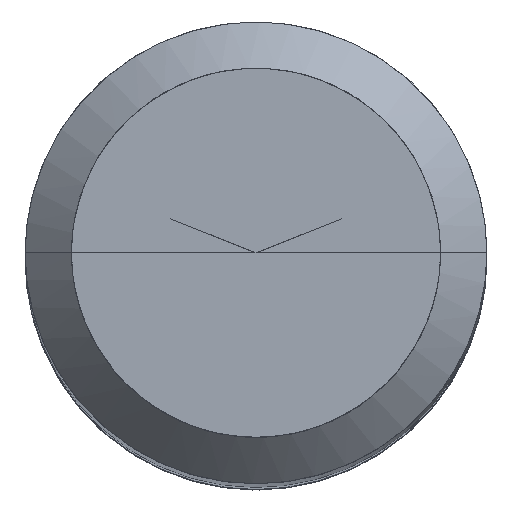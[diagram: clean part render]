
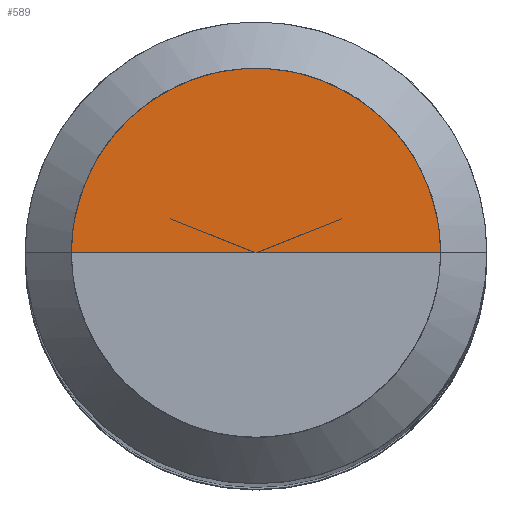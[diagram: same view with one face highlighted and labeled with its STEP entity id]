
A CAD part, top view. The second image highlights one B-rep face of the part: STEP entity #589.
In plain terms, the highlighted free-form (B-spline) face has degree [1, 2] with [2, 5] control points.
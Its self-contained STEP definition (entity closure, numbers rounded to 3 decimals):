
#301=CARTESIAN_POINT('',(4.8,0.0,53.134));
#302=CARTESIAN_POINT('',(4.8,4.8,53.134));
#303=CARTESIAN_POINT('',(0.0,4.8,53.134));
#304=CARTESIAN_POINT('',(-4.8,4.8,53.134));
#305=CARTESIAN_POINT('',(-4.8,0.0,53.134));
#306=CARTESIAN_POINT('',(0.0,0.0,53.134));
#574=(
BOUNDED_SURFACE()
B_SPLINE_SURFACE(1,2,(
(#301,#302,#303,#304,#305),
(#306,#306,#306,#306,#306)
), .UNSPECIFIED.,.F.,.F.,.F.)
B_SPLINE_SURFACE_WITH_KNOTS((2,2),(3,2,3),(
0.0,1.0),(
0.0,0.5,1.0), .UNSPECIFIED.)
GEOMETRIC_REPRESENTATION_ITEM()
RATIONAL_B_SPLINE_SURFACE(((1.0,0.707,1.0,0.707,1.0),
(1.0,0.707,1.0,0.707,1.0)
))
REPRESENTATION_ITEM('')
SURFACE()
);
#575=(
BOUNDED_CURVE()
B_SPLINE_CURVE(2,(#305,#304,#303,#302,#301),.UNSPECIFIED.,.F.,.F.)
B_SPLINE_CURVE_WITH_KNOTS((3,2,3),
(0.0,0.5,1.0),.UNSPECIFIED.)
CURVE()
GEOMETRIC_REPRESENTATION_ITEM()
RATIONAL_B_SPLINE_CURVE((1.0,0.707,1.0,0.707,1.0))
REPRESENTATION_ITEM('')
);
#576=(
BOUNDED_CURVE()
B_SPLINE_CURVE(1,(#301,#306),.UNSPECIFIED.,.F.,.F.)
B_SPLINE_CURVE_WITH_KNOTS((2,2),
(0.0,1.0),.UNSPECIFIED.)
CURVE()
GEOMETRIC_REPRESENTATION_ITEM()
RATIONAL_B_SPLINE_CURVE((1.0,1.0))
REPRESENTATION_ITEM('')
);
#577=(
BOUNDED_CURVE()
B_SPLINE_CURVE(1,(#306,#305),.UNSPECIFIED.,.F.,.F.)
B_SPLINE_CURVE_WITH_KNOTS((2,2),
(0.0,1.0),.UNSPECIFIED.)
CURVE()
GEOMETRIC_REPRESENTATION_ITEM()
RATIONAL_B_SPLINE_CURVE((1.0,1.0))
REPRESENTATION_ITEM('')
);
#578=VERTEX_POINT('',#301);
#579=VERTEX_POINT('',#305);
#580=VERTEX_POINT('',#306);
#581=EDGE_CURVE('',#579,#578,#575,.T.);
#582=EDGE_CURVE('',#578,#580,#576,.T.);
#583=EDGE_CURVE('',#580,#579,#577,.T.);
#584=ORIENTED_EDGE('',*,*,#581,.T.);
#585=ORIENTED_EDGE('',*,*,#582,.T.);
#586=ORIENTED_EDGE('',*,*,#583,.T.);
#587=EDGE_LOOP('',(#584,#585,#586));
#588=FACE_OUTER_BOUND('',#587,.T.);
#589=ADVANCED_FACE('',(#588),#574,.T.);
